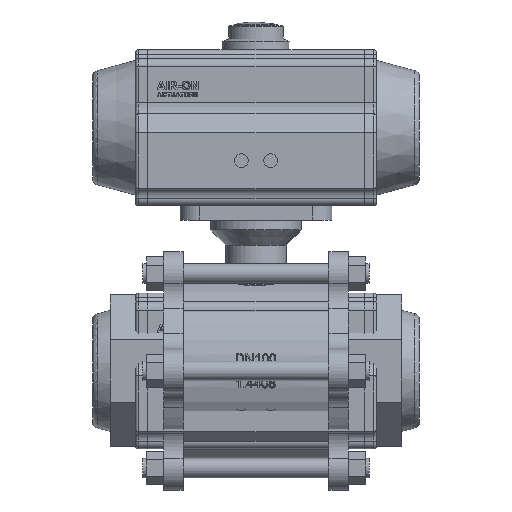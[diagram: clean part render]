
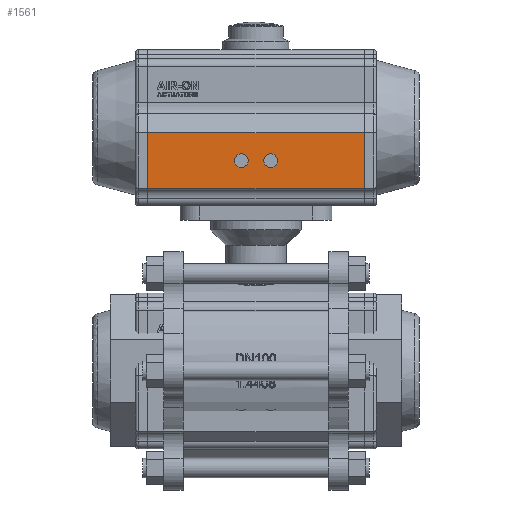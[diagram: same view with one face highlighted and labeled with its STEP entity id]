
A CAD part, front view. The second image highlights one B-rep face of the part: STEP entity #1561.
In plain terms, the highlighted planar face has unit normal (0, -1, 0).
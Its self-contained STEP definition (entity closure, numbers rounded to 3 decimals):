
#1561 = ADVANCED_FACE( '', ( #3450, #3451, #3452 ), #3453, .T. );
#3450 = FACE_BOUND( '', #8315, .T. );
#3451 = FACE_BOUND( '', #8316, .T. );
#3452 = FACE_OUTER_BOUND( '', #8317, .T. );
#3453 = PLANE( '', #8318 );
#8315 = EDGE_LOOP( '', ( #14426 ) );
#8316 = EDGE_LOOP( '', ( #14427 ) );
#8317 = EDGE_LOOP( '', ( #14428, #14429, #14430, #14431 ) );
#8318 = AXIS2_PLACEMENT_3D( '', #14432, #14433, #14434 );
#14426 = ORIENTED_EDGE( '', *, *, #18214, .T. );
#14427 = ORIENTED_EDGE( '', *, *, #16567, .T. );
#14428 = ORIENTED_EDGE( '', *, *, #17344, .F. );
#14429 = ORIENTED_EDGE( '', *, *, #16861, .F. );
#14430 = ORIENTED_EDGE( '', *, *, #18145, .T. );
#14431 = ORIENTED_EDGE( '', *, *, #17370, .T. );
#14432 = CARTESIAN_POINT( '', ( 89., -67., -50. ) );
#14433 = DIRECTION( '', ( 0., -1., 0. ) );
#14434 = DIRECTION( '', ( 0., 0., -1. ) );
#16567 = EDGE_CURVE( '', #18803, #18803, #18804, .T. );
#16861 = EDGE_CURVE( '', #19318, #19314, #19320, .T. );
#17344 = EDGE_CURVE( '', #19314, #20138, #20139, .T. );
#17370 = EDGE_CURVE( '', #20184, #20138, #20185, .T. );
#18145 = EDGE_CURVE( '', #19318, #20184, #21316, .T. );
#18214 = EDGE_CURVE( '', #21401, #21401, #21402, .T. );
#18803 = VERTEX_POINT( '', #22173 );
#18804 = CIRCLE( '', #22174, 5.723 );
#19314 = VERTEX_POINT( '', #23249 );
#19318 = VERTEX_POINT( '', #23255 );
#19320 = LINE( '', #23258, #23259 );
#20138 = VERTEX_POINT( '', #26316 );
#20139 = LINE( '', #26317, #26318 );
#20184 = VERTEX_POINT( '', #26371 );
#20185 = LINE( '', #26372, #26373 );
#21316 = LINE( '', #29361, #29362 );
#21401 = VERTEX_POINT( '', #29778 );
#21402 = CIRCLE( '', #29779, 5.723 );
#22173 = CARTESIAN_POINT( '', ( 12., -67., -32.723 ) );
#22174 = AXIS2_PLACEMENT_3D( '', #30952, #30953, #30954 );
#23249 = CARTESIAN_POINT( '', ( -89., -67., -50. ) );
#23255 = CARTESIAN_POINT( '', ( 89., -67., -50. ) );
#23258 = CARTESIAN_POINT( '', ( 89., -67., -50. ) );
#23259 = VECTOR( '', #31285, 1000. );
#26316 = CARTESIAN_POINT( '', ( -89., -67., -4. ) );
#26317 = CARTESIAN_POINT( '', ( -89., -67., -50. ) );
#26318 = VECTOR( '', #31673, 1000. );
#26371 = CARTESIAN_POINT( '', ( 89., -67., -4. ) );
#26372 = CARTESIAN_POINT( '', ( 89., -67., -4. ) );
#26373 = VECTOR( '', #31727, 1000. );
#29361 = CARTESIAN_POINT( '', ( 89., -67., -50. ) );
#29362 = VECTOR( '', #32413, 1000. );
#29778 = CARTESIAN_POINT( '', ( -12., -67., -32.723 ) );
#29779 = AXIS2_PLACEMENT_3D( '', #32469, #32470, #32471 );
#30952 = CARTESIAN_POINT( '', ( 12., -67., -27. ) );
#30953 = DIRECTION( '', ( 0., 1., 0. ) );
#30954 = DIRECTION( '', ( 0., 0., -1. ) );
#31285 = DIRECTION( '', ( -1., 0., 0. ) );
#31673 = DIRECTION( '', ( 0., 0., 1. ) );
#31727 = DIRECTION( '', ( -1., 0., 0. ) );
#32413 = DIRECTION( '', ( 0., 0., 1. ) );
#32469 = CARTESIAN_POINT( '', ( -12., -67., -27. ) );
#32470 = DIRECTION( '', ( 0., 1., 0. ) );
#32471 = DIRECTION( '', ( 0., 0., -1. ) );
